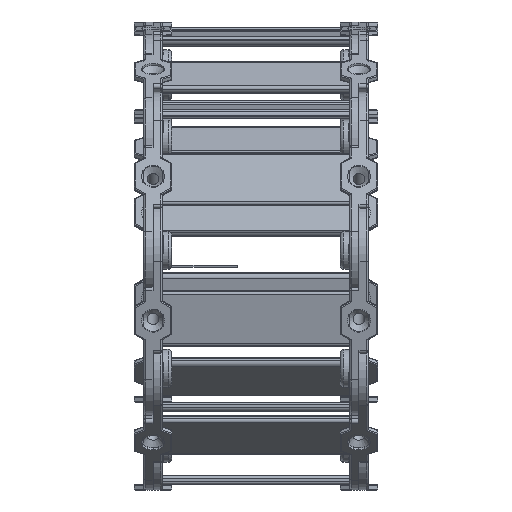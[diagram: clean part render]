
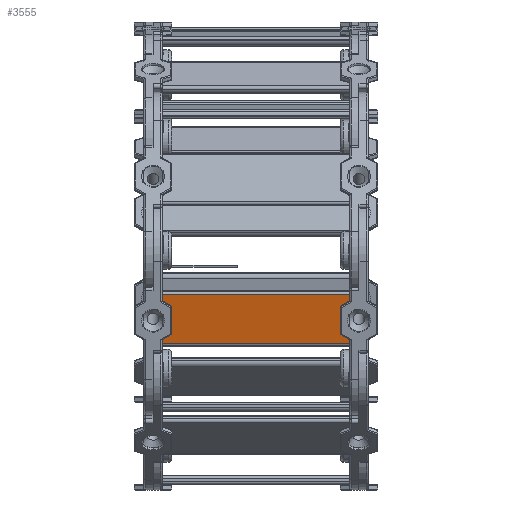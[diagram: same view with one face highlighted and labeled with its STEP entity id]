
A CAD part, front view. The second image highlights one B-rep face of the part: STEP entity #3555.
In plain terms, the highlighted planar face has unit normal (0, -0.97, -0.244) as drawn and (1, 0, 0) by its records, which use the part's own axes.
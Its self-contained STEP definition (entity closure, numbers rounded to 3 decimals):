
#3516=CARTESIAN_POINT('',(48.742,50.631,0.0));
#3517=DIRECTION('',(1.0,0.0,0.0));
#3518=DIRECTION('',(0.0,0.0,-1.0));
#3519=AXIS2_PLACEMENT_3D('',#3516,#3517,#3518);
#3520=PLANE('',#3519);
#3521=CARTESIAN_POINT('',(48.742,50.631,100.0));
#3522=VERTEX_POINT('',#3521);
#3523=CARTESIAN_POINT('',(48.742,23.635,100.0));
#3524=VERTEX_POINT('',#3523);
#3525=CARTESIAN_POINT('',(48.742,50.631,100.0));
#3526=DIRECTION('',(0.0,-1.0,0.0));
#3527=VECTOR('',#3526,26.996);
#3528=LINE('',#3525,#3527);
#3529=EDGE_CURVE('',#3522,#3524,#3528,.T.);
#3530=ORIENTED_EDGE('',*,*,#3529,.T.);
#3531=CARTESIAN_POINT('',(48.742,23.635,0.0));
#3532=VERTEX_POINT('',#3531);
#3533=CARTESIAN_POINT('',(48.742,23.635,0.0));
#3534=DIRECTION('',(0.0,0.0,1.0));
#3535=VECTOR('',#3534,100.0);
#3536=LINE('',#3533,#3535);
#3537=EDGE_CURVE('',#3532,#3524,#3536,.T.);
#3538=ORIENTED_EDGE('',*,*,#3537,.F.);
#3539=CARTESIAN_POINT('',(48.742,50.631,0.0));
#3540=VERTEX_POINT('',#3539);
#3541=CARTESIAN_POINT('',(48.742,23.635,0.0));
#3542=DIRECTION('',(0.0,1.0,0.0));
#3543=VECTOR('',#3542,26.996);
#3544=LINE('',#3541,#3543);
#3545=EDGE_CURVE('',#3532,#3540,#3544,.T.);
#3546=ORIENTED_EDGE('',*,*,#3545,.T.);
#3547=CARTESIAN_POINT('',(48.742,50.631,0.0));
#3548=DIRECTION('',(0.0,0.0,1.0));
#3549=VECTOR('',#3548,100.0);
#3550=LINE('',#3547,#3549);
#3551=EDGE_CURVE('',#3540,#3522,#3550,.T.);
#3552=ORIENTED_EDGE('',*,*,#3551,.T.);
#3553=EDGE_LOOP('',(#3530,#3538,#3546,#3552));
#3554=FACE_OUTER_BOUND('',#3553,.T.);
#3555=ADVANCED_FACE('',(#3554),#3520,.T.);
